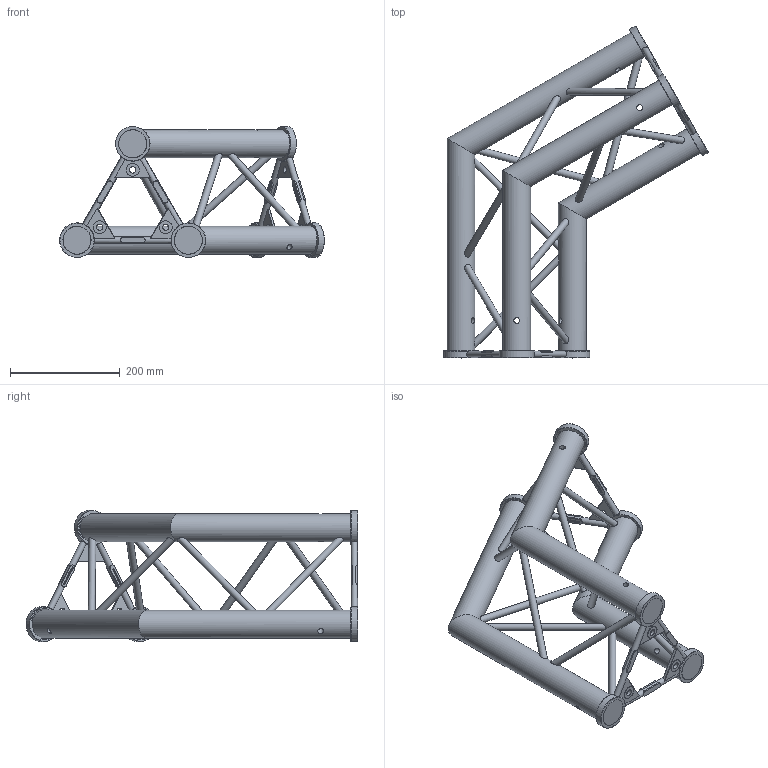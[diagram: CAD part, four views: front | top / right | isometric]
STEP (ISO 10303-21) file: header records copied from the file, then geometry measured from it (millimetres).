
FILE_DESCRIPTION(/* description */ (''),/* implementation_level */ '2;1');
FILE_NAME(/* name */ 'C:\Users\stephan\Desktop\A03\Corners\112030017.stp',/* time_stamp */ '2016-02-12T14:35:57+01:00',/* author */ ('Stephan'),/* organization */ (''),/* preprocessor_version */ 'ST-DEVELOPER v15.6',/* originating_system */ 'Autodesk Inventor 2015',/* authorisation */ '');
FILE_SCHEMA (('AUTOMOTIVE_DESIGN { 1 0 10303 214 3 1 1 }'));
Products named in the file (1): 260000388
Bounding box: 482.44 x 605.16 x 239.1 mm (x, y, z)
Volume: 4464154.4 mm3; surface area: 511559.1 mm2
Topology: 3 solids, 3 shells, 1948 faces, 5234 edges, 3486 vertices
Faces by surface type: plane 954, bspline 856, cylinder 114, cone 12, torus 12
Full cylindrical faces by diameter (mm): 10.5 x6, 11.5 x12, 12.7 x12, 23.5 x6, 50.8 x6, 51.3 x6, 63.3 x6
Entity records: 70224 total; most frequent: CARTESIAN_POINT 25865, ORIENTED_EDGE 10228, DIRECTION 5620, EDGE_CURVE 5114, VERTEX_POINT 3440, LINE 3094, VECTOR 3094, EDGE_LOOP 2276
